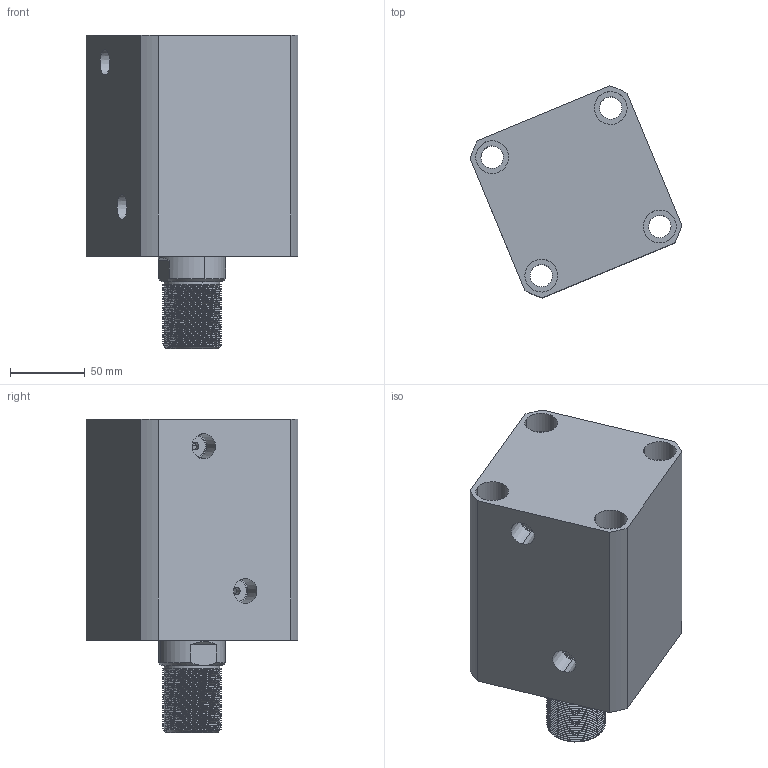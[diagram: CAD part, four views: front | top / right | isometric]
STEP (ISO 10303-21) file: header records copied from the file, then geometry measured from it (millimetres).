
FILE_DESCRIPTION (( 'STEP AP214' ), '1' );
FILE_NAME ('chtb-sd80x70n_asm.STEP', '2018-05-26T08:55:35', ( 'Windows' ), ( 'Microsoft' ), 'SwSTEP 2.0', 'SolidWorks 2015', '' );
FILE_SCHEMA (( 'AUTOMOTIVE_DESIGN' ));
Length unit declared in the file: millimetre
Products named in the file (4): CHTB-SD80X70NHSG; CHTB-SD80X70NBT; CHTB-SD80QG; chtb-sd80x70n_asm
Assembly tree (3 placements, depth 2):
  chtb-sd80x70n_asm
    CHTB-SD80QG
    CHTB-SD80X70NBT
    CHTB-SD80X70NHSG
Bounding box: 142.06 x 142.06 x 210 mm (x, y, z)
Volume: 1586155.3 mm3; surface area: 227510.6 mm2
Topology: 3 solids, 3 shells, 253 faces, 689 edges, 462 vertices
Faces by surface type: cylinder 159, plane 40, cone 20, torus 18, bspline 16
Entity records: 20271 total; most frequent: CARTESIAN_POINT 14293, ORIENTED_EDGE 1370, DIRECTION 1078, EDGE_CURVE 685, VERTEX_POINT 462, AXIS2_PLACEMENT_3D 439, EDGE_LOOP 291, ADVANCED_FACE 253
